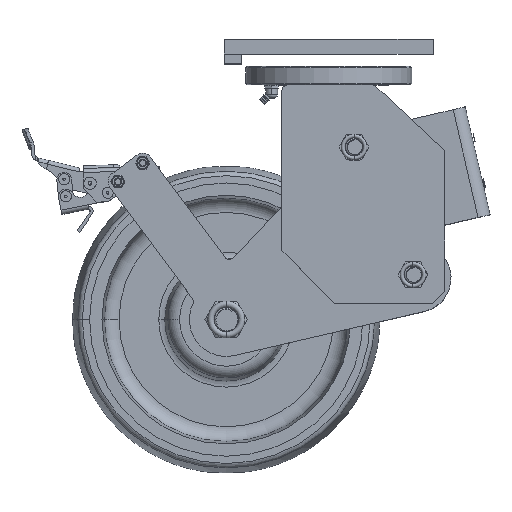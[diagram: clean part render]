
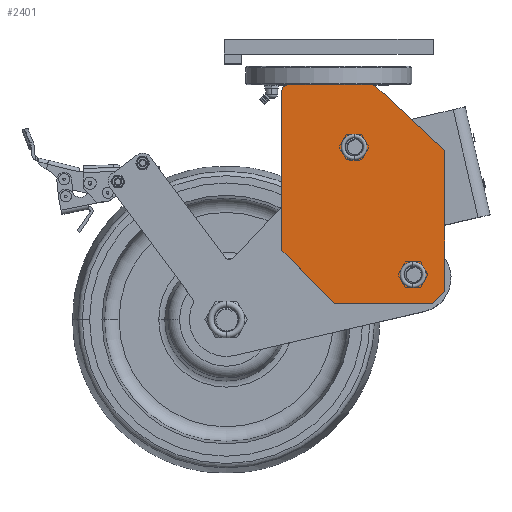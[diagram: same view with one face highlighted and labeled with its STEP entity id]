
A CAD part, top view. The second image highlights one B-rep face of the part: STEP entity #2401.
In plain terms, the highlighted planar face has unit normal (0, 0, 1).
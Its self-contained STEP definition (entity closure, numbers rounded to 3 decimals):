
#1797=CARTESIAN_POINT('',(20.6,-87.7,56.));
#1798=DIRECTION('',(0.,0.,1.));
#1799=DIRECTION('',(-1.,0.,0.));
#1800=AXIS2_PLACEMENT_3D('',#1797,#1798,#1799);
#1802=CARTESIAN_POINT('',(20.6,-87.7,56.));
#1803=DIRECTION('',(0.,0.,1.));
#1804=DIRECTION('',(1.,0.,0.));
#1805=AXIS2_PLACEMENT_3D('',#1802,#1803,#1804);
#1807=CARTESIAN_POINT('',(68.1,-191.7,56.));
#1808=DIRECTION('',(0.,0.,1.));
#1809=DIRECTION('',(-1.,0.,0.));
#1810=AXIS2_PLACEMENT_3D('',#1807,#1808,#1809);
#1812=CARTESIAN_POINT('',(68.1,-191.7,56.));
#1813=DIRECTION('',(0.,0.,1.));
#1814=DIRECTION('',(1.,0.,0.));
#1815=AXIS2_PLACEMENT_3D('',#1812,#1813,#1814);
#1817=DIRECTION('',(1.,0.,0.));
#1818=VECTOR('',#1817,68.034);
#1819=CARTESIAN_POINT('',(-33.,-37.,56.));
#1820=LINE('',#1819,#1818);
#1821=CARTESIAN_POINT('',(35.034,-42.,56.));
#1822=DIRECTION('',(0.,0.,-1.));
#1823=DIRECTION('',(0.,1.,0.));
#1824=AXIS2_PLACEMENT_3D('',#1821,#1822,#1823);
#1826=DIRECTION('',(0.732,-0.681,0.));
#1827=VECTOR('',#1826,76.573);
#1828=CARTESIAN_POINT('',(38.44,-38.339,56.));
#1829=LINE('',#1828,#1827);
#1830=DIRECTION('',(0.,-1.,0.));
#1831=VECTOR('',#1830,114.5);
#1832=CARTESIAN_POINT('',(94.5,-90.5,56.));
#1833=LINE('',#1832,#1831);
#1834=DIRECTION('',(-0.707,-0.707,0.));
#1835=VECTOR('',#1834,14.142);
#1836=CARTESIAN_POINT('',(94.5,-205.,56.));
#1837=LINE('',#1836,#1835);
#1838=DIRECTION('',(-1.,0.,0.));
#1839=VECTOR('',#1838,80.);
#1840=CARTESIAN_POINT('',(84.5,-215.,56.));
#1841=LINE('',#1840,#1839);
#1842=DIRECTION('',(-0.703,0.711,0.));
#1843=VECTOR('',#1842,60.459);
#1844=CARTESIAN_POINT('',(4.5,-215.,56.));
#1845=LINE('',#1844,#1843);
#1846=DIRECTION('',(0.,1.,0.));
#1847=VECTOR('',#1846,130.);
#1848=CARTESIAN_POINT('',(-38.,-172.,56.));
#1849=LINE('',#1848,#1847);
#1850=CARTESIAN_POINT('',(-33.,-42.,56.));
#1851=DIRECTION('',(0.,0.,-1.));
#1852=DIRECTION('',(-1.,0.,0.));
#1853=AXIS2_PLACEMENT_3D('',#1850,#1851,#1852);
#1965=CARTESIAN_POINT('',(13.1,-87.7,56.));
#1966=CARTESIAN_POINT('',(28.1,-87.7,56.));
#1967=VERTEX_POINT('',#1965);
#1968=VERTEX_POINT('',#1966);
#1969=CARTESIAN_POINT('',(60.6,-191.7,56.));
#1970=CARTESIAN_POINT('',(75.6,-191.7,56.));
#1971=VERTEX_POINT('',#1969);
#1972=VERTEX_POINT('',#1970);
#1973=CARTESIAN_POINT('',(-33.,-37.,56.));
#1974=CARTESIAN_POINT('',(35.034,-37.,56.));
#1975=VERTEX_POINT('',#1973);
#1976=VERTEX_POINT('',#1974);
#1977=CARTESIAN_POINT('',(38.44,-38.339,56.));
#1978=VERTEX_POINT('',#1977);
#1979=CARTESIAN_POINT('',(94.5,-90.5,56.));
#1980=VERTEX_POINT('',#1979);
#1981=CARTESIAN_POINT('',(94.5,-205.,56.));
#1982=VERTEX_POINT('',#1981);
#1983=CARTESIAN_POINT('',(84.5,-215.,56.));
#1984=VERTEX_POINT('',#1983);
#1985=CARTESIAN_POINT('',(4.5,-215.,56.));
#1986=VERTEX_POINT('',#1985);
#1987=CARTESIAN_POINT('',(-38.,-172.,56.));
#1988=VERTEX_POINT('',#1987);
#1989=CARTESIAN_POINT('',(-38.,-42.,56.));
#1990=VERTEX_POINT('',#1989);
#2364=CARTESIAN_POINT('',(68.1,-191.7,56.));
#2365=DIRECTION('',(0.,0.,-1.));
#2366=DIRECTION('',(-1.,0.,0.));
#2367=AXIS2_PLACEMENT_3D('',#2364,#2365,#2366);
#2368=PLANE('',#2367);
#2370=ORIENTED_EDGE('',*,*,#2369,.T.);
#2372=ORIENTED_EDGE('',*,*,#2371,.T.);
#2374=ORIENTED_EDGE('',*,*,#2373,.T.);
#2376=ORIENTED_EDGE('',*,*,#2375,.T.);
#2378=ORIENTED_EDGE('',*,*,#2377,.T.);
#2380=ORIENTED_EDGE('',*,*,#2379,.T.);
#2382=ORIENTED_EDGE('',*,*,#2381,.T.);
#2384=ORIENTED_EDGE('',*,*,#2383,.T.);
#2386=ORIENTED_EDGE('',*,*,#2385,.T.);
#2387=EDGE_LOOP('',(#2370,#2372,#2374,#2376,#2378,#2380,#2382,#2384,#2386));
#2388=FACE_OUTER_BOUND('',#2387,.F.);
#2390=ORIENTED_EDGE('',*,*,#2389,.T.);
#2392=ORIENTED_EDGE('',*,*,#2391,.T.);
#2393=EDGE_LOOP('',(#2390,#2392));
#2394=FACE_BOUND('',#2393,.F.);
#2396=ORIENTED_EDGE('',*,*,#2395,.T.);
#2398=ORIENTED_EDGE('',*,*,#2397,.T.);
#2399=EDGE_LOOP('',(#2396,#2398));
#2400=FACE_BOUND('',#2399,.F.);
#1801=CIRCLE('',#1800,7.5);
#1806=CIRCLE('',#1805,7.5);
#1811=CIRCLE('',#1810,7.5);
#1816=CIRCLE('',#1815,7.5);
#1825=CIRCLE('',#1824,5.);
#1854=CIRCLE('',#1853,5.);
#2369=EDGE_CURVE('',#1975,#1976,#1820,.T.);
#2371=EDGE_CURVE('',#1976,#1978,#1825,.T.);
#2373=EDGE_CURVE('',#1978,#1980,#1829,.T.);
#2375=EDGE_CURVE('',#1980,#1982,#1833,.T.);
#2377=EDGE_CURVE('',#1982,#1984,#1837,.T.);
#2379=EDGE_CURVE('',#1984,#1986,#1841,.T.);
#2381=EDGE_CURVE('',#1986,#1988,#1845,.T.);
#2383=EDGE_CURVE('',#1988,#1990,#1849,.T.);
#2385=EDGE_CURVE('',#1990,#1975,#1854,.T.);
#2389=EDGE_CURVE('',#1971,#1972,#1811,.T.);
#2391=EDGE_CURVE('',#1972,#1971,#1816,.T.);
#2395=EDGE_CURVE('',#1967,#1968,#1801,.T.);
#2397=EDGE_CURVE('',#1968,#1967,#1806,.T.);
#2401=ADVANCED_FACE('',(#2388,#2394,#2400),#2368,.F.);
